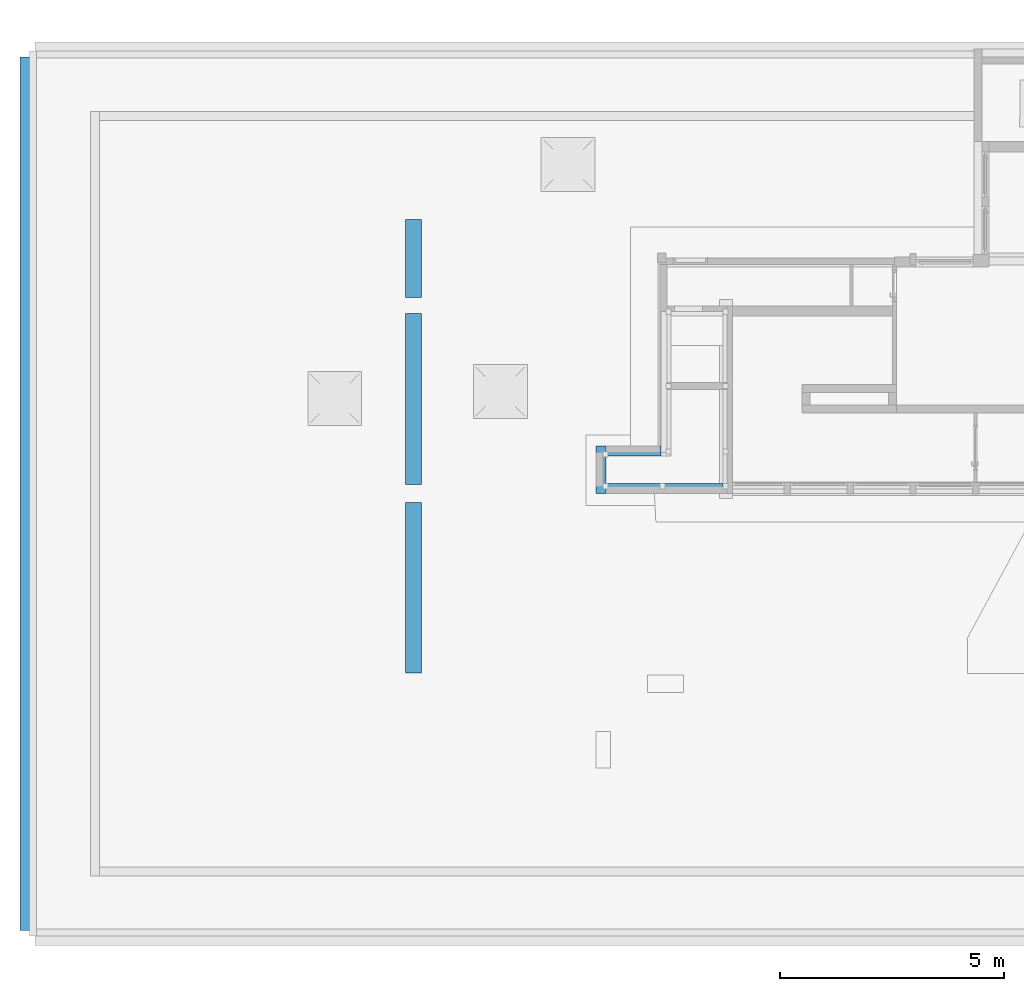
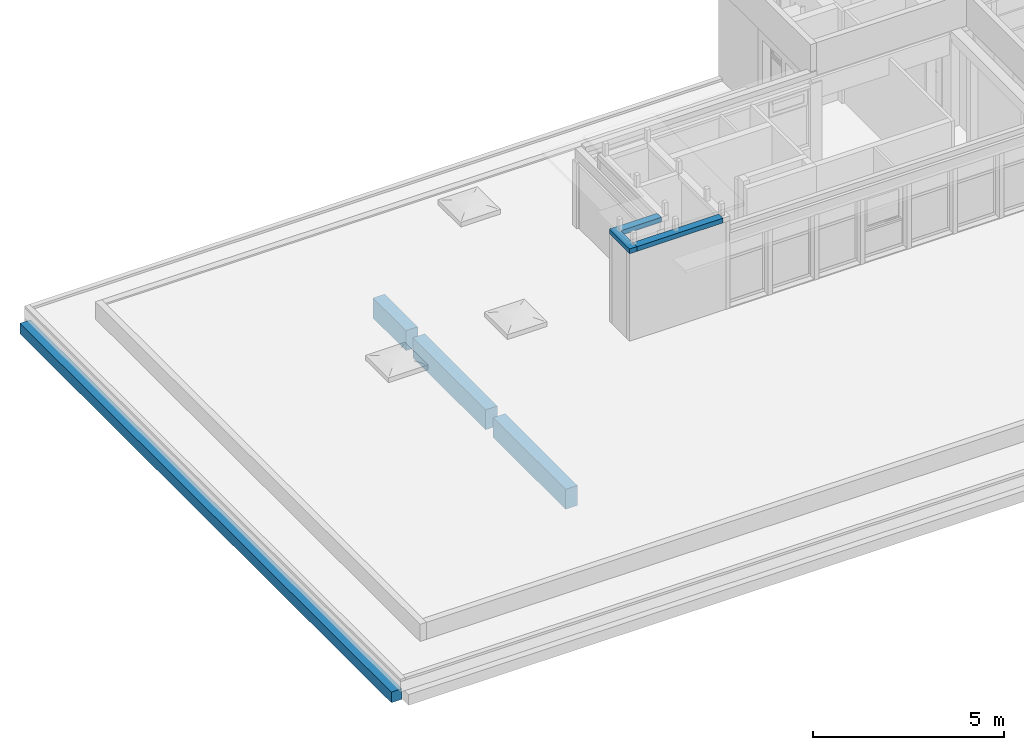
# One storey, part 3 of 49: 5 beams.
"""IFC4 building model written with IfcOpenShell, lengths in metres."""

from ifc_helpers import new_model, entity, si_unit, converted_unit, derived_unit, direction, frame, origin, place, context, subcontext, project, spatial, indexed_curve, outline, extrude, source, transform, mapped, material, type_object, type_shapes, element, save


model = new_model("IFC4")

# Units and contexts
model_context = context("Model", 3, precision=1e-05, world=origin(), true_north=direction((6.12303176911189e-17, 1.0)))
body_context = subcontext(model_context, "Body", "Model", "MODEL_VIEW")
ifc_project = project(units=[si_unit("LENGTHUNIT", "METRE"), si_unit("AREAUNIT", "SQUARE_METRE"), si_unit("VOLUMEUNIT", "CUBIC_METRE"), converted_unit("PLANEANGLEUNIT", "DEGREE", entity("IfcRatioMeasure", 0.0174532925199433), si_unit("PLANEANGLEUNIT", "RADIAN"), dimensions=[0, 0, 0, 0, 0, 0, 0]), si_unit("MASSUNIT", "GRAM", prefix="KILO"), derived_unit("MASSDENSITYUNIT", [(si_unit("MASSUNIT", "GRAM", prefix="KILO"), 1), (si_unit("LENGTHUNIT", "METRE"), -3)]), derived_unit("MOMENTOFINERTIAUNIT", [(si_unit("LENGTHUNIT", "METRE"), 4)]), si_unit("TIMEUNIT", "SECOND"), si_unit("FREQUENCYUNIT", "HERTZ"), si_unit("THERMODYNAMICTEMPERATUREUNIT", "DEGREE_CELSIUS"), derived_unit("THERMALTRANSMITTANCEUNIT", [(si_unit("MASSUNIT", "GRAM", prefix="KILO"), 1), (si_unit("THERMODYNAMICTEMPERATUREUNIT", "KELVIN"), -1), (si_unit("TIMEUNIT", "SECOND"), -3)]), derived_unit("VOLUMETRICFLOWRATEUNIT", [(si_unit("LENGTHUNIT", "METRE"), 3), (si_unit("TIMEUNIT", "SECOND"), -1)]), si_unit("ELECTRICCURRENTUNIT", "AMPERE"), si_unit("ELECTRICVOLTAGEUNIT", "VOLT"), si_unit("POWERUNIT", "WATT"), si_unit("FORCEUNIT", "NEWTON", prefix="KILO"), si_unit("ILLUMINANCEUNIT", "LUX"), si_unit("LUMINOUSFLUXUNIT", "LUMEN"), si_unit("LUMINOUSINTENSITYUNIT", "CANDELA"), derived_unit("USERDEFINED", [(si_unit("MASSUNIT", "GRAM", prefix="KILO"), -1), (si_unit("LENGTHUNIT", "METRE"), -2), (si_unit("TIMEUNIT", "SECOND"), 3), (si_unit("LUMINOUSFLUXUNIT", "LUMEN"), 1)]), derived_unit("LINEARVELOCITYUNIT", [(si_unit("LENGTHUNIT", "METRE"), 1), (si_unit("TIMEUNIT", "SECOND"), -1)]), si_unit("PRESSUREUNIT", "PASCAL"), derived_unit("USERDEFINED", [(si_unit("LENGTHUNIT", "METRE"), -2), (si_unit("MASSUNIT", "GRAM", prefix="KILO"), 1), (si_unit("TIMEUNIT", "SECOND"), -2)]), derived_unit("LINEARFORCEUNIT", [(si_unit("MASSUNIT", "GRAM", prefix="KILO"), 1), (si_unit("LENGTHUNIT", "METRE"), 1), (si_unit("TIMEUNIT", "SECOND"), -2), (si_unit("LENGTHUNIT", "METRE"), -1)]), derived_unit("PLANARFORCEUNIT", [(si_unit("MASSUNIT", "GRAM", prefix="KILO"), 1), (si_unit("LENGTHUNIT", "METRE"), 1), (si_unit("TIMEUNIT", "SECOND"), -2), (si_unit("LENGTHUNIT", "METRE"), -2)])], contexts=[model_context])

# Site, building, storey
site_placement = place(None, origin())
site = spatial("IfcSite", under=ifc_project, at=site_placement, Name="Default", CompositionType="ELEMENT")
building_placement = place(site_placement, origin())
building = spatial("IfcBuilding", under=site, at=building_placement, Name="HOTEL CONSULAIRE BOULOGNE SUR MER", CompositionType="ELEMENT")
storey_placement = place(building_placement, frame((0.0, 0.0, 6.81974152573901)))
storey = spatial("IfcBuildingStorey", under=building, at=storey_placement, Name="Niveau 2", CompositionType="ELEMENT", Elevation=6.81974152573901)

# Beams
ifc_material = material(Name="Béton - Béton coulé sur place", Category="Béton")
beam_type_1 = type_object("IfcBeamType", Name="Poutre rectangulaire - Béton:320x340", PredefinedType="BEAM", material=ifc_material)
shared_shape_1 = source(origin(), body_context, "Body", "SweptSolid", [
    extrude(outline(indexed_curve([(-0.16, -0.17), (0.159999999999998, -0.17), (0.159999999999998, 0.169999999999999), (-0.16, 0.169999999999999), (-0.16, -0.17)], self_intersect=False)), frame((-13.9639806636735, -29.5540671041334, 6.46174152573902), z_axis=(0.0, 1.0, 0.0), x_axis=(-1.0, 0.0, 0.0)), (0.0, 0.0, 1.0), 19.4694347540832),
])
type_shapes(beam_type_1, [shared_shape_1])
beam_1_placement = place(storey_placement, frame((0.0, 0.0, -6.81974152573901)))
element("IfcBeam", 1, at=beam_1_placement, inside=storey, type_object=beam_type_1, material=ifc_material, Name="Poutre rectangulaire - Béton:320x340", ObjectType="Poutre rectangulaire - Béton:320x340", PredefinedType="BEAM", context=body_context, shape_type="MappedRepresentation", body=[
    mapped(shared_shape_1, transform((0.0, 0.0, 0.0), scale=1.0)),
])
beam_type_2 = type_object("IfcBeamType", Name="Poutre rectangulaire - Béton:360x640", PredefinedType="BEAM", material=ifc_material)
shared_shape_2 = source(origin(), body_context, "Body", "SweptSolid", [
    extrude(outline(indexed_curve([(-0.18, -0.32), (0.18, -0.32), (0.18, 0.320000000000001), (-0.18, 0.320000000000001), (-0.18, -0.32)], self_intersect=False)), frame((-5.35252868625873, -15.4428590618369, 6.31174152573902), z_axis=(0.0, 1.0, 0.0), x_axis=(-1.0, 0.0, 0.0)), (0.0, 0.0, 1.0), 1.73267462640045),
    extrude(outline(indexed_curve([(-0.18, -0.32), (0.18, -0.32), (0.18, 0.320000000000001), (-0.18, 0.320000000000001), (-0.18, -0.32)], self_intersect=False)), frame((-5.35252868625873, -19.6170276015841, 6.31174152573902), z_axis=(0.0, 1.0, 0.0), x_axis=(-1.0, 0.0, 0.0)), (0.0, 0.0, 1.0), 3.8141685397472),
    extrude(outline(indexed_curve([(-0.18, -0.32), (0.18, -0.32), (0.18, 0.320000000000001), (-0.18, 0.320000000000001), (-0.18, -0.32)], self_intersect=False)), frame((-5.35252868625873, -23.815909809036, 6.31174152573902), z_axis=(0.0, 1.0, 0.0), x_axis=(-1.0, 0.0, 0.0)), (0.0, 0.0, 1.0), 3.7988822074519),
])
type_shapes(beam_type_2, [shared_shape_2])
beam_2_placement = place(storey_placement, frame((0.0, 0.0, -6.81974152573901)))
element("IfcBeam", 2, at=beam_2_placement, inside=storey, type_object=beam_type_2, material=ifc_material, Name="Poutre rectangulaire - Béton:360x640", ObjectType="Poutre rectangulaire - Béton:360x640", PredefinedType="BEAM", context=body_context, shape_type="MappedRepresentation", body=[
    mapped(shared_shape_2, transform((0.0, 0.0, 0.0), scale=1.0)),
])
beam_type_3 = type_object("IfcBeamType", Name="Poutre rectangulaire - Béton:220x150", PredefinedType="BEAM", material=ifc_material)
shared_shape_3 = source(origin(), body_context, "Body", "SweptSolid", [
    extrude(outline(indexed_curve([(-0.11, -0.0750000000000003), (0.11, -0.0750000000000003), (0.11, 0.0750000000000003), (-0.11, 0.0750000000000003), (-0.11, -0.0750000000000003)], self_intersect=False)), frame((-1.17536494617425, -18.7546212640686, 10.336641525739), z_axis=(0.0, -1.0, 0.0), x_axis=(-1.0, 0.0, 0.0)), (0.0, 0.0, 1.0), 1.06128854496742),
])
type_shapes(beam_type_3, [shared_shape_3])
beam_3_placement = place(storey_placement, frame((0.0, 0.0, -6.81974152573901)))
element("IfcBeam", 3, at=beam_3_placement, inside=storey, type_object=beam_type_3, material=ifc_material, Name="Poutre rectangulaire - Béton:220x150", ObjectType="Poutre rectangulaire - Béton:220x150", PredefinedType="BEAM", context=body_context, shape_type="MappedRepresentation", body=[
    mapped(shared_shape_3, transform((0.0, 0.0, 0.0), scale=1.0)),
])
beam_type_4 = type_object("IfcBeamType", Name="Poutre rectangulaire - Béton:220x150", PredefinedType="BEAM", material=ifc_material)
shared_shape_4 = source(origin(), body_context, "Body", "SweptSolid", [
    extrude(outline(indexed_curve([(-0.0750000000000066, -0.109999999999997), (0.0749999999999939, -0.109999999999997), (0.0750000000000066, 0.110000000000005), (-0.0749999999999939, 0.110000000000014), (-0.0750000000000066, -0.109999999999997)], self_intersect=False)), frame((-1.06536494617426, -19.705909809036, 10.336641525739), z_axis=(1.0, 0.0, 0.0), x_axis=(0.0, 0.0, -1.0)), (0.0, 0.0, 1.0), 2.60283625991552),
])
type_shapes(beam_type_4, [shared_shape_4])
beam_4_placement = place(storey_placement, frame((0.0, 0.0, -6.81974152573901)))
element("IfcBeam", 4, at=beam_4_placement, inside=storey, type_object=beam_type_4, material=ifc_material, Name="Poutre rectangulaire - Béton:220x150", ObjectType="Poutre rectangulaire - Béton:220x150", PredefinedType="BEAM", context=body_context, shape_type="MappedRepresentation", body=[
    mapped(shared_shape_4, transform((0.0, 0.0, 0.0), scale=1.0)),
])
beam_type_5 = type_object("IfcBeamType", Name="Poutre rectangulaire - Béton:220x150", PredefinedType="BEAM", material=ifc_material)
shared_shape_5 = source(origin(), body_context, "Body", "SweptSolid", [
    extrude(outline(indexed_curve([(-0.0750000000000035, -0.109999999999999), (0.0749999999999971, -0.109999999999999), (0.0750000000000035, 0.110000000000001), (-0.0749999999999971, 0.110000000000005), (-0.0750000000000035, -0.109999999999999)], self_intersect=False)), frame((-1.06536494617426, -18.8646212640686, 10.336641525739), z_axis=(1.0, 0.0, 0.0), x_axis=(0.0, 0.0, -1.0)), (0.0, 0.0, 1.0), 1.22700000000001),
])
type_shapes(beam_type_5, [shared_shape_5])
beam_5_placement = place(storey_placement, frame((0.0, 0.0, -6.81974152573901)))
element("IfcBeam", 5, at=beam_5_placement, inside=storey, type_object=beam_type_5, material=ifc_material, Name="Poutre rectangulaire - Béton:220x150", ObjectType="Poutre rectangulaire - Béton:220x150", PredefinedType="BEAM", context=body_context, shape_type="MappedRepresentation", body=[
    mapped(shared_shape_5, transform((0.0, 0.0, 0.0), scale=1.0)),
])

save(model, "model.ifc")
